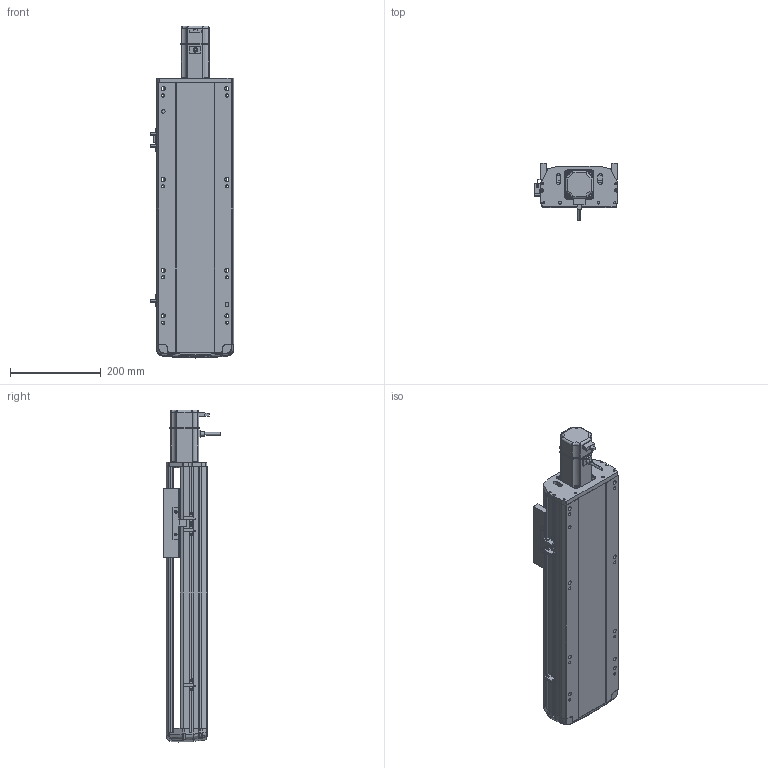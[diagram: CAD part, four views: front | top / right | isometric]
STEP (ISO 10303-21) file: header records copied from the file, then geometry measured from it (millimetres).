
FILE_DESCRIPTION (( 'STEP AP214' ), '1' );
FILE_NAME ('RTH17-XX-350-E-M40-C4（方程式）.STEP', '2025-10-24T05:38:57', ( '' ), ( '' ), 'SwSTEP 2.0', 'SolidWorks 2018', '' );
FILE_SCHEMA (( 'AUTOMOTIVE_DESIGN' ));
Length unit declared in the file: millimetre
Products named in the file (9): N_RTH17-E-004丝杆螺母连接座^RTH17-XX-XX-E-M40-C4（方程式）; RTH17-XX-350-E-M40-C4（方程式）; N_OMRON EE-SX672 換覜ん^RTH17-XX-XX-E-M40-C4ㄗ源最宒ㄘ; N_RTH17-E-007上盖^RTH17-XX-XX-E-M40-C4（方程式）; N_RTH17-GY-001P^RTH17-XX-XX-E-M40-C4（方程式）; N_RTH17-E-008-P40电机板^RTH17-XX-XX-E-M40-C4（方程式）; N_RTH17-E-011底座^RTH17-XX-XX-E-M40-C4（方程式）; N_RTH-BL-012 感应片(外置)^RTH17-XX-XX-E-M40-C4（方程式）; N_M40^RTH17-XX-XX-E-M40-C4（方程式）
Assembly tree (10 placements, depth 2):
  RTH17-XX-350-E-M40-C4（方程式）
    N_RTH17-E-011底座^RTH17-XX-XX-E-M40-C4（方程式）
    N_RTH17-E-007上盖^RTH17-XX-XX-E-M40-C4（方程式）
    N_RTH17-E-008-P40电机板^RTH17-XX-XX-E-M40-C4（方程式）
    N_OMRON EE-SX672 換覜ん^RTH17-XX-XX-E-M40-C4ㄗ源最宒ㄘ  x3
    N_RTH-BL-012 感应片(外置)^RTH17-XX-XX-E-M40-C4（方程式）
    N_RTH17-E-004丝杆螺母连接座^RTH17-XX-XX-E-M40-C4（方程式）
    N_RTH17-GY-001P^RTH17-XX-XX-E-M40-C4（方程式）
    N_M40^RTH17-XX-XX-E-M40-C4（方程式）
Bounding box: 183.5 x 127 x 730.77 mm (x, y, z)
Volume: 5339150.1 mm3; surface area: 748002.7 mm2
Topology: 9 solids, 11 shells, 1649 faces, 4603 edges, 3002 vertices
Faces by surface type: plane 825, cylinder 457, bspline 330, cone 28, torus 9
Entity records: 48029 total; most frequent: CARTESIAN_POINT 19270, ORIENTED_EDGE 6230, DIRECTION 5175, EDGE_CURVE 3119, VERTEX_POINT 2038, VECTOR 1759, LINE 1759, AXIS2_PLACEMENT_3D 1708
